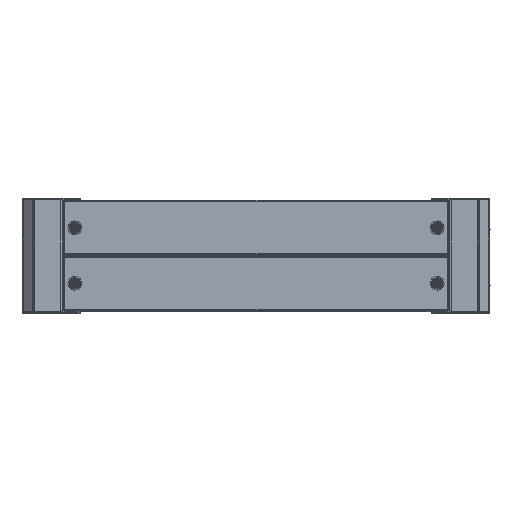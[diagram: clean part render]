
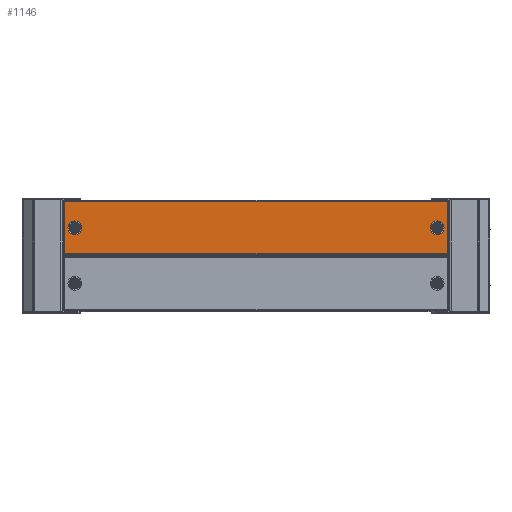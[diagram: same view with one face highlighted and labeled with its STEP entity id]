
A CAD part, top view. The second image highlights one B-rep face of the part: STEP entity #1146.
In plain terms, the highlighted planar face has unit normal (0, 0, 1) as drawn and (0, -1, 0) by its records, which use the part's own axes.
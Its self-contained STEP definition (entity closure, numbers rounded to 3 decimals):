
#6 = EDGE_CURVE ( 'NONE', #6419, #5369, #4326, .T. ) ;
#287 = LINE ( 'NONE', #4920, #1763 ) ;
#888 = CARTESIAN_POINT ( 'NONE',  ( 309.75, 0., -11.657 ) ) ;
#1000 = VECTOR ( 'NONE', #1113, 1000. ) ;
#1113 = DIRECTION ( 'NONE',  ( -1., 0., 0. ) ) ;
#1138 = EDGE_LOOP ( 'NONE', ( #6156, #6707 ) ) ;
#1146 = ADVANCED_FACE ( 'NONE', ( #5921, #2473, #4799 ), #4766, .T. ) ;
#1172 = AXIS2_PLACEMENT_3D ( 'NONE', #5635, #2152, #4467 ) ;
#1195 = CARTESIAN_POINT ( 'NONE',  ( -309.75, 0., -11.657 ) ) ;
#1250 = VERTEX_POINT ( 'NONE', #1756 ) ;
#1269 = EDGE_LOOP ( 'NONE', ( #5189, #6826 ) ) ;
#1446 = DIRECTION ( 'NONE',  ( 1., 0., 0. ) ) ;
#1484 = CARTESIAN_POINT ( 'NONE',  ( -326.6, 0., 47. ) ) ;
#1701 = VERTEX_POINT ( 'NONE', #3183 ) ;
#1756 = CARTESIAN_POINT ( 'NONE',  ( -326.6, 0., -44.6 ) ) ;
#1763 = VECTOR ( 'NONE', #1446, 1000. ) ;
#1887 = CIRCLE ( 'NONE', #1172, 11.657 ) ;
#2152 = DIRECTION ( 'NONE',  ( 0., 1., 0. ) ) ;
#2163 = DIRECTION ( 'NONE',  ( 0., 0., -1. ) ) ;
#2222 = CIRCLE ( 'NONE', #6461, 11.657 ) ;
#2228 = DIRECTION ( 'NONE',  ( 0., -1., 0. ) ) ;
#2235 = VECTOR ( 'NONE', #2163, 1000. ) ;
#2417 = CARTESIAN_POINT ( 'NONE',  ( 326.6, 0., 44.6 ) ) ;
#2473 = FACE_OUTER_BOUND ( 'NONE', #3583, .T. ) ;
#2683 = LINE ( 'NONE', #1484, #3713 ) ;
#2843 = AXIS2_PLACEMENT_3D ( 'NONE', #3541, #5884, #3578 ) ;
#2923 = VERTEX_POINT ( 'NONE', #1195 ) ;
#2941 = LINE ( 'NONE', #2417, #1000 ) ;
#3175 = VERTEX_POINT ( 'NONE', #3254 ) ;
#3183 = CARTESIAN_POINT ( 'NONE',  ( 326.6, 0., -44.6 ) ) ;
#3228 = EDGE_CURVE ( 'NONE', #4769, #5331, #2941, .T. ) ;
#3254 = CARTESIAN_POINT ( 'NONE',  ( -309.75, 0., 11.657 ) ) ;
#3487 = DIRECTION ( 'NONE',  ( 0., 0., 1. ) ) ;
#3541 = CARTESIAN_POINT ( 'NONE',  ( -329., 0., 47. ) ) ;
#3578 = DIRECTION ( 'NONE',  ( 0., 0., -1. ) ) ;
#3583 = EDGE_LOOP ( 'NONE', ( #7136, #5676, #3867, #3671 ) ) ;
#3671 = ORIENTED_EDGE ( 'NONE', *, *, #3228, .T. ) ;
#3713 = VECTOR ( 'NONE', #4999, 1000. ) ;
#3787 = CARTESIAN_POINT ( 'NONE',  ( 326.6, 0., 47. ) ) ;
#3823 = CARTESIAN_POINT ( 'NONE',  ( 309.75, 0., 11.657 ) ) ;
#3827 = EDGE_CURVE ( 'NONE', #5369, #6419, #1887, .T. ) ;
#3867 = ORIENTED_EDGE ( 'NONE', *, *, #5813, .F. ) ;
#3886 = DIRECTION ( 'NONE',  ( 0., 0., 1. ) ) ;
#4195 = AXIS2_PLACEMENT_3D ( 'NONE', #5719, #2228, #3487 ) ;
#4213 = EDGE_CURVE ( 'NONE', #3175, #2923, #4796, .T. ) ;
#4326 = CIRCLE ( 'NONE', #5766, 11.657 ) ;
#4467 = DIRECTION ( 'NONE',  ( 0., 0., 1. ) ) ;
#4470 = EDGE_CURVE ( 'NONE', #1250, #1701, #287, .T. ) ;
#4766 = PLANE ( 'NONE',  #2843 ) ;
#4769 = VERTEX_POINT ( 'NONE', #6504 ) ;
#4796 = CIRCLE ( 'NONE', #4195, 11.657 ) ;
#4799 = FACE_BOUND ( 'NONE', #1138, .T. ) ;
#4920 = CARTESIAN_POINT ( 'NONE',  ( -326.6, 0., -44.6 ) ) ;
#4999 = DIRECTION ( 'NONE',  ( 0., 0., -1. ) ) ;
#5018 = CARTESIAN_POINT ( 'NONE',  ( -309.75, 0., 0. ) ) ;
#5019 = EDGE_CURVE ( 'NONE', #2923, #3175, #2222, .T. ) ;
#5189 = ORIENTED_EDGE ( 'NONE', *, *, #4213, .F. ) ;
#5331 = VERTEX_POINT ( 'NONE', #6050 ) ;
#5369 = VERTEX_POINT ( 'NONE', #888 ) ;
#5635 = CARTESIAN_POINT ( 'NONE',  ( 309.75, 0., 0. ) ) ;
#5676 = ORIENTED_EDGE ( 'NONE', *, *, #4470, .T. ) ;
#5719 = CARTESIAN_POINT ( 'NONE',  ( -309.75, 0., 0. ) ) ;
#5735 = DIRECTION ( 'NONE',  ( 0., -1., 0. ) ) ;
#5766 = AXIS2_PLACEMENT_3D ( 'NONE', #6107, #6149, #7294 ) ;
#5813 = EDGE_CURVE ( 'NONE', #4769, #1701, #7347, .T. ) ;
#5884 = DIRECTION ( 'NONE',  ( 0., -1., 0. ) ) ;
#5921 = FACE_BOUND ( 'NONE', #1269, .T. ) ;
#6050 = CARTESIAN_POINT ( 'NONE',  ( -326.6, 0., 44.6 ) ) ;
#6107 = CARTESIAN_POINT ( 'NONE',  ( 309.75, 0., 0. ) ) ;
#6149 = DIRECTION ( 'NONE',  ( 0., 1., 0. ) ) ;
#6156 = ORIENTED_EDGE ( 'NONE', *, *, #6, .T. ) ;
#6419 = VERTEX_POINT ( 'NONE', #3823 ) ;
#6461 = AXIS2_PLACEMENT_3D ( 'NONE', #5018, #5735, #3886 ) ;
#6502 = EDGE_CURVE ( 'NONE', #5331, #1250, #2683, .T. ) ;
#6504 = CARTESIAN_POINT ( 'NONE',  ( 326.6, 0., 44.6 ) ) ;
#6707 = ORIENTED_EDGE ( 'NONE', *, *, #3827, .T. ) ;
#6826 = ORIENTED_EDGE ( 'NONE', *, *, #5019, .F. ) ;
#7136 = ORIENTED_EDGE ( 'NONE', *, *, #6502, .T. ) ;
#7294 = DIRECTION ( 'NONE',  ( 0., 0., 1. ) ) ;
#7347 = LINE ( 'NONE', #3787, #2235 ) ;
